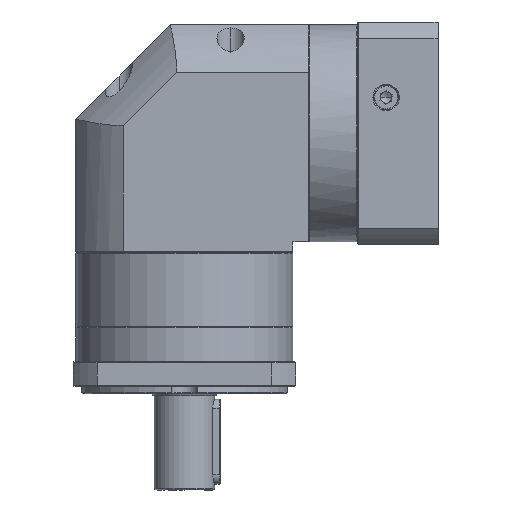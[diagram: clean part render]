
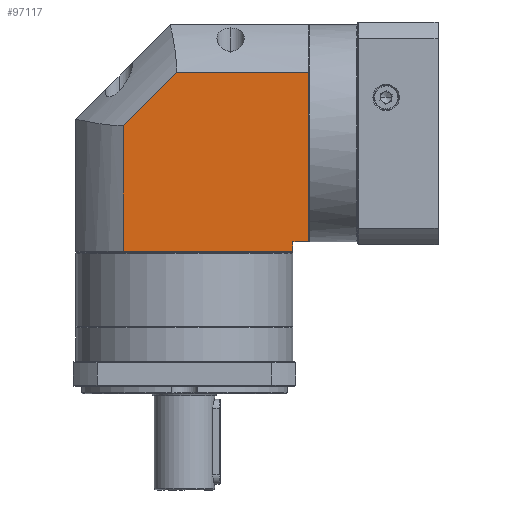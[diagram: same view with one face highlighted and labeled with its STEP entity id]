
A CAD part, front view. The second image highlights one B-rep face of the part: STEP entity #97117.
In plain terms, the highlighted planar face has unit normal (0, -1, 0).
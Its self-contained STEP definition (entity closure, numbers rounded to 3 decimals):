
#6210 = EDGE_CURVE ( 'NONE', #97058, #69004, #55409, .T. ) ;
#7265 = DIRECTION ( 'NONE',  ( 1., 0., 0. ) ) ;
#8175 = LINE ( 'NONE', #61229, #32360 ) ;
#14113 = EDGE_CURVE ( 'NONE', #19283, #97058, #91509, .T. ) ;
#14432 = DIRECTION ( 'NONE',  ( -1., 0., 0. ) ) ;
#16713 = VECTOR ( 'NONE', #92399, 1000. ) ;
#17974 = CARTESIAN_POINT ( 'NONE',  ( 119.068, 21.647, -30.278 ) ) ;
#19283 = VERTEX_POINT ( 'NONE', #66002 ) ;
#22838 = DIRECTION ( 'NONE',  ( 0., 1., 0. ) ) ;
#24192 = CARTESIAN_POINT ( 'NONE',  ( 4.068, 21.647, -30.278 ) ) ;
#27072 = CARTESIAN_POINT ( 'NONE',  ( 29.168, 21.647, 42.784 ) ) ;
#29491 = DIRECTION ( 'NONE',  ( 0., 0., -1. ) ) ;
#30097 = ORIENTED_EDGE ( 'NONE', *, *, #32897, .F. ) ;
#32360 = VECTOR ( 'NONE', #29491, 1000. ) ;
#32758 = EDGE_CURVE ( 'NONE', #69004, #90138, #83945, .T. ) ;
#32897 = EDGE_CURVE ( 'NONE', #90138, #100564, #82233, .T. ) ;
#38396 = CARTESIAN_POINT ( 'NONE',  ( 29.168, 21.647, 42.784 ) ) ;
#45051 = VECTOR ( 'NONE', #46627, 1000. ) ;
#45102 = CARTESIAN_POINT ( 'NONE',  ( 29.168, 21.647, -23.778 ) ) ;
#46627 = DIRECTION ( 'NONE',  ( 0., 0., 1. ) ) ;
#49703 = ORIENTED_EDGE ( 'NONE', *, *, #14113, .F. ) ;
#50220 = DIRECTION ( 'NONE',  ( 0.707, 0., 0.707 ) ) ;
#52663 = AXIS2_PLACEMENT_3D ( 'NONE', #24192, #22838, #64582 ) ;
#52828 = CARTESIAN_POINT ( 'NONE',  ( 127.468, 21.647, 71.122 ) ) ;
#54176 = PLANE ( 'NONE',  #52663 ) ;
#55409 = LINE ( 'NONE', #118186, #58663 ) ;
#58663 = VECTOR ( 'NONE', #14432, 1000. ) ;
#59796 = CARTESIAN_POINT ( 'NONE',  ( 4.068, 21.647, 71.122 ) ) ;
#60640 = CARTESIAN_POINT ( 'NONE',  ( 127.468, 21.647, -18.778 ) ) ;
#61229 = CARTESIAN_POINT ( 'NONE',  ( 127.468, 21.647, -30.278 ) ) ;
#62246 = LINE ( 'NONE', #59796, #119053 ) ;
#64582 = DIRECTION ( 'NONE',  ( 1., 0., 0. ) ) ;
#66002 = CARTESIAN_POINT ( 'NONE',  ( 119.068, 21.647, -18.778 ) ) ;
#69004 = VERTEX_POINT ( 'NONE', #45102 ) ;
#82233 = LINE ( 'NONE', #38396, #122948 ) ;
#83577 = CARTESIAN_POINT ( 'NONE',  ( 119.068, 21.647, -23.778 ) ) ;
#83945 = LINE ( 'NONE', #120956, #45051 ) ;
#89203 = FACE_OUTER_BOUND ( 'NONE', #131867, .T. ) ;
#90138 = VERTEX_POINT ( 'NONE', #27072 ) ;
#90895 = EDGE_CURVE ( 'NONE', #126204, #133188, #8175, .T. ) ;
#91509 = LINE ( 'NONE', #17974, #94762 ) ;
#92399 = DIRECTION ( 'NONE',  ( -1., 0., 0. ) ) ;
#93332 = EDGE_CURVE ( 'NONE', #133188, #19283, #104331, .T. ) ;
#94762 = VECTOR ( 'NONE', #101776, 1000. ) ;
#94935 = ORIENTED_EDGE ( 'NONE', *, *, #90895, .F. ) ;
#95317 = EDGE_CURVE ( 'NONE', #100564, #126204, #62246, .T. ) ;
#97058 = VERTEX_POINT ( 'NONE', #83577 ) ;
#97117 = ADVANCED_FACE ( 'NONE', ( #89203 ), #54176, .F. ) ;
#99335 = CARTESIAN_POINT ( 'NONE',  ( 57.506, 21.647, 71.122 ) ) ;
#99746 = ORIENTED_EDGE ( 'NONE', *, *, #32758, .F. ) ;
#100564 = VERTEX_POINT ( 'NONE', #99335 ) ;
#101053 = CARTESIAN_POINT ( 'NONE',  ( 4.068, 21.647, -18.778 ) ) ;
#101776 = DIRECTION ( 'NONE',  ( 0., 0., -1. ) ) ;
#104331 = LINE ( 'NONE', #101053, #16713 ) ;
#118186 = CARTESIAN_POINT ( 'NONE',  ( 4.068, 21.647, -23.778 ) ) ;
#119053 = VECTOR ( 'NONE', #7265, 1000. ) ;
#120956 = CARTESIAN_POINT ( 'NONE',  ( 29.168, 21.647, -30.278 ) ) ;
#121024 = ORIENTED_EDGE ( 'NONE', *, *, #6210, .F. ) ;
#122251 = ORIENTED_EDGE ( 'NONE', *, *, #93332, .F. ) ;
#122948 = VECTOR ( 'NONE', #50220, 1000. ) ;
#126204 = VERTEX_POINT ( 'NONE', #52828 ) ;
#126980 = ORIENTED_EDGE ( 'NONE', *, *, #95317, .F. ) ;
#131867 = EDGE_LOOP ( 'NONE', ( #49703, #122251, #94935, #126980, #30097, #99746, #121024 ) ) ;
#133188 = VERTEX_POINT ( 'NONE', #60640 ) ;
